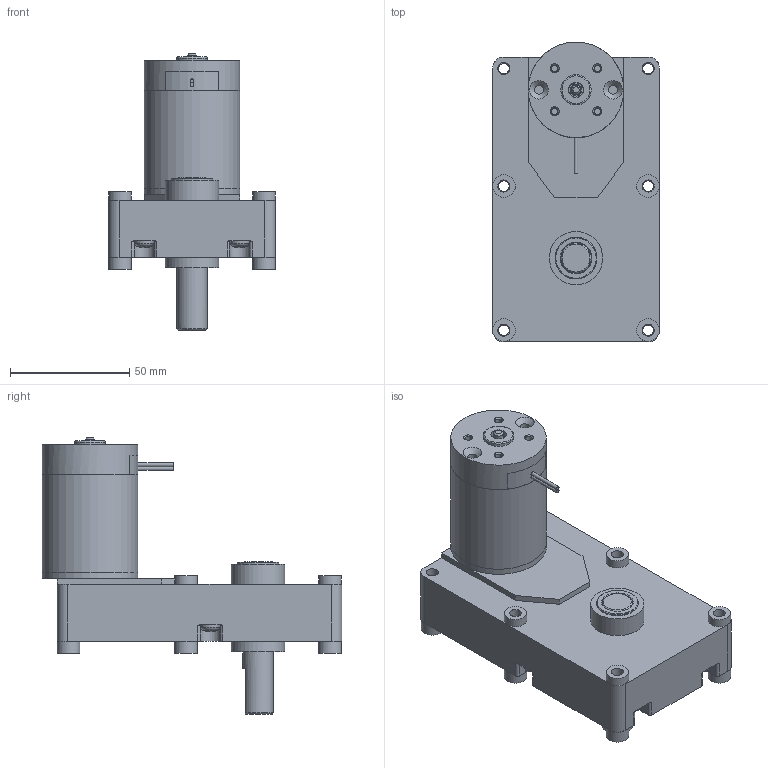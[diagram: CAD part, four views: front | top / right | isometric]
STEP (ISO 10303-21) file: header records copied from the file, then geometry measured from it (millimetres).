
FILE_DESCRIPTION((''),'2;1');
FILE_NAME('D:\업무 관련\2. DC\홈페이지 링크용 도면\3D\SG\SG43BL.stp','2015-04-04T09:17:28',('leejy'),(''),'Autodesk Inventor 2013','Autodesk Inventor 2013','');
FILE_SCHEMA(('AUTOMOTIVE_DESIGN { 1 0 10303 214 1 1 1 1 }'));
Length unit declared in the file: millimetre
Products named in the file (9): SG43BL; SG2 SERIES BOX; RM43ㅁBL; RM4TYPE_FRONT_HOUSING_; RM4TYPE_PIPE_HOUSING_pi40XL40.8; RM43TYPE_SHAFT; REAR_HOUSING__ASS'Y_LEAD; RM4TYPE_BRUSH_BRAKET_LEAD; RM4TYPE_REAR_HOUSING
Assembly tree (7 placements, depth 3):
  SG43BL
    SG2 SERIES BOX
    RM43ㅁBL
      RM4TYPE_FRONT_HOUSING_
      RM4TYPE_PIPE_HOUSING_pi40XL40.8
      RM43TYPE_SHAFT
  REAR_HOUSING__ASS'Y_LEAD
    RM4TYPE_BRUSH_BRAKET_LEAD
    RM4TYPE_REAR_HOUSING
Bounding box: 69.85 x 125.41 x 115.68 mm (x, y, z)
Volume: 121066.1 mm3; surface area: 74367.1 mm2
Topology: 8 solids, 8 shells, 447 faces, 1160 edges, 749 vertices
Faces by surface type: plane 171, cylinder 123, cone 95, torus 52, sphere 6
Full cylindrical faces by diameter (mm): 1.6 x2, 2.7 x4, 2.8 x4, 3.571 x6, 3.7 x2, 3.969 x1, 4 x7, 4.3 x6, 4.4 x6, 4.45 x1, 5 x1, 5.05 x6, 6 x1, 6.5 x1, 6.65 x1, 9.4 x1, 9.5 x9, 12.7 x5, 17.5 x4, 20.3 x1, 22.3 x2, 36.5 x1, 40 x3
Entity records: 13805 total; most frequent: CARTESIAN_POINT 3392, DIRECTION 2117, ORIENTED_EDGE 1928, EDGE_CURVE 964, AXIS2_PLACEMENT_3D 907, VERTEX_POINT 688, EDGE_LOOP 654, FACE_OUTER_BOUND 447
